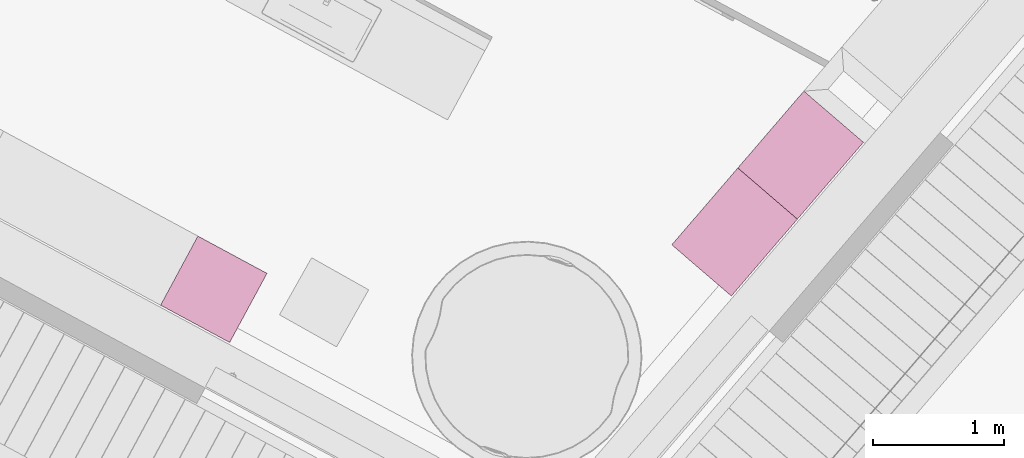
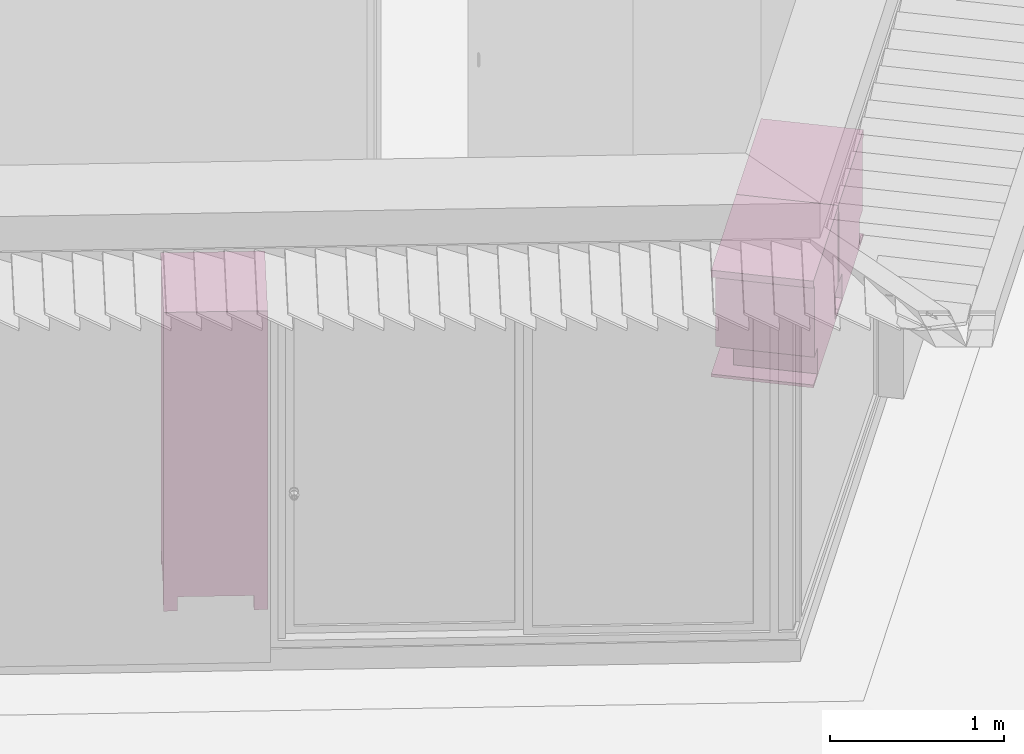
# One storey, part 24 of 41: 3 furnishings.
"""IFC2X3 building model written with IfcOpenShell, lengths in metres."""

from ifc_helpers import new_model, entity, si_unit, converted_unit, derived_unit, money_unit, direction, frame, origin_with_axes, place, context, subcontext, project, spatial, open_shell, faceted_brep, surface_model, source, transform, mapped, type_object, element, save


model = new_model("IFC2X3")

# Units and contexts
model_context = context("Model", 3, precision=1e-05, world=origin_with_axes(), true_north=direction((0.0, 1.0)))
body_context = subcontext(model_context, "Body", "Model", "MODEL_VIEW")
ifc_project = project(units=[si_unit("LENGTHUNIT", "METRE"), si_unit("AREAUNIT", "SQUARE_METRE"), si_unit("VOLUMEUNIT", "CUBIC_METRE"), converted_unit("PLANEANGLEUNIT", "DEGREE", entity("IfcPlaneAngleMeasure", 0.0174532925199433), si_unit("PLANEANGLEUNIT", "RADIAN"), dimensions=[0, 0, 0, 0, 0, 0, 0]), money_unit("EUR"), converted_unit("TIMEUNIT", "Year", entity("IfcTimeMeasure", 31556926.0), si_unit("TIMEUNIT", "SECOND"), dimensions=[0, 0, 1, 0, 0, 0, 0]), si_unit("MASSUNIT", "GRAM", prefix="KILO"), si_unit("THERMODYNAMICTEMPERATUREUNIT", "DEGREE_CELSIUS"), si_unit("LUMINOUSINTENSITYUNIT", "LUMEN"), si_unit("ENERGYUNIT", "JOULE", prefix="MEGA"), derived_unit("THERMALCONDUCTANCEUNIT", [(si_unit("POWERUNIT", "WATT"), 1), (si_unit("LENGTHUNIT", "METRE"), -1), (si_unit("THERMODYNAMICTEMPERATUREUNIT", "KELVIN"), -1)]), derived_unit("SPECIFICHEATCAPACITYUNIT", [(si_unit("ENERGYUNIT", "JOULE"), 1), (si_unit("MASSUNIT", "GRAM", prefix="KILO"), -1), (si_unit("THERMODYNAMICTEMPERATUREUNIT", "KELVIN"), -1)]), derived_unit("MASSDENSITYUNIT", [(si_unit("MASSUNIT", "GRAM", prefix="KILO"), 1), (si_unit("VOLUMEUNIT", "CUBIC_METRE"), -1)])], contexts=[model_context])

# Site, building, storey
site_placement = place(None, frame((-3.949935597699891, 1.740105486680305, 0.0), z_axis=(0.0, 0.0, 1.0), x_axis=(0.8799804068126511, -0.475009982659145, 0.0)))
site = spatial("IfcSite", under=ifc_project, at=site_placement, Name="Gelände", CompositionType="ELEMENT")
building_placement = place(site_placement, origin_with_axes())
building = spatial("IfcBuilding", under=site, at=building_placement, Name="Gebäude", CompositionType="ELEMENT")
storey_placement = place(building_placement, frame((0.0, 0.0, 4.55), z_axis=(0.0, 0.0, 1.0), x_axis=(1.0, 0.0, 0.0)))
storey = spatial("IfcBuildingStorey", under=building, at=storey_placement, Name="Staffelgeschoss", CompositionType="ELEMENT", Elevation=4.55)

# Furnishings
furniture_type_1 = type_object("IfcFurnitureType", Name="Kleiderschrank 22", AssemblyPlace="NOTDEFINED")
shared_shape_1 = source(origin_with_axes(), body_context, "Body", "Brep", [
    faceted_brep([(-0.02000000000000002, 0.6000000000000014, 0.12), (-0.02000000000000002, 0.6000000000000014, 2.05), (-0.02000000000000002, 0.5800000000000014, 2.05), (-0.02000000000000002, 0.5800000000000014, 0.12), (-0.5799999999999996, 0.6000000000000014, 0.12), (-0.5799999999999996, 0.6000000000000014, 2.05), (-0.5799999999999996, 0.5800000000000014, 2.05), (-0.5799999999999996, 0.5800000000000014, 0.12)], [[[0, 1, 2, 3]], [[4, 5, 1, 0]], [[1, 5, 6, 2]], [[3, 2, 6, 7]], [[0, 3, 7, 4]], [[7, 6, 5, 4]]]),
    faceted_brep([(-0.5999999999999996, 0.05000000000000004, 0.1), (-0.5999999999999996, 0.6000000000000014, 0.1), (-0.5799999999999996, 0.6000000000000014, 0.1), (-0.5799999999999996, 0.05000000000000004, 0.1), (-0.5999999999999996, 0.05000000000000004, 2.07), (-0.5999999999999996, 0.6000000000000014, 2.07), (-0.5799999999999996, 0.6000000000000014, 2.07), (-0.5799999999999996, 0.05000000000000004, 2.07)], [[[0, 1, 2, 3]], [[0, 4, 5, 1]], [[1, 5, 6, 2]], [[2, 6, 7, 3]], [[3, 7, 4, 0]], [[7, 6, 5, 4]]]),
    faceted_brep([(-0.02, 0.05000000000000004, 0.1), (-0.02, 0.6000000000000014, 0.1), (0.0, 0.6000000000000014, 0.1), (0.0, 0.05000000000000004, 0.1), (-0.02, 0.05000000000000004, 2.07), (-0.02, 0.6000000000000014, 2.07), (0.0, 0.6000000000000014, 2.07), (0.0, 0.05000000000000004, 2.07)], [[[0, 1, 2, 3]], [[0, 4, 5, 1]], [[1, 5, 6, 2]], [[2, 6, 7, 3]], [[3, 7, 4, 0]], [[7, 6, 5, 4]]]),
    faceted_brep([(-0.5799999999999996, 0.05000000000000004, 0.1), (-0.5799999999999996, 0.6000000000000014, 0.1), (-0.02000000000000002, 0.6000000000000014, 0.1), (-0.02000000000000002, 0.05000000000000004, 0.1), (-0.5799999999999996, 0.05000000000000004, 0.12), (-0.5799999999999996, 0.6000000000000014, 0.12), (-0.02000000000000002, 0.6000000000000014, 0.12), (-0.02000000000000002, 0.05000000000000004, 0.12)], [[[0, 1, 2, 3]], [[0, 4, 5, 1]], [[1, 5, 6, 2]], [[2, 6, 7, 3]], [[3, 7, 4, 0]], [[7, 6, 5, 4]]]),
    faceted_brep([(-0.5799999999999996, 0.05000000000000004, 2.05), (-0.5799999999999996, 0.6000000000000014, 2.05), (-0.02000000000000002, 0.6000000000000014, 2.05), (-0.02000000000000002, 0.05000000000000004, 2.05), (-0.5799999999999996, 0.05000000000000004, 2.07), (-0.5799999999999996, 0.6000000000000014, 2.07), (-0.02000000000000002, 0.6000000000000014, 2.07), (-0.02000000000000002, 0.05000000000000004, 2.07)], [[[0, 1, 2, 3]], [[0, 4, 5, 1]], [[1, 5, 6, 2]], [[2, 6, 7, 3]], [[3, 7, 4, 0]], [[7, 6, 5, 4]]]),
    faceted_brep([(-0.5999999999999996, 0.6000000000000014, 2.07), (-0.5999999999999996, 0.0, 2.07), (-0.5999999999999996, 0.0, 2.1), (-0.5999999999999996, 0.6000000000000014, 2.1), (0.0, 0.6000000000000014, 2.07), (0.0, 0.0, 2.07), (0.0, 0.0, 2.1), (0.0, 0.6000000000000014, 2.1)], [[[0, 1, 2, 3]], [[0, 4, 5, 1]], [[1, 5, 6, 2]], [[3, 2, 6, 7]], [[4, 0, 3, 7]], [[5, 4, 7, 6]]]),
    faceted_brep([(-0.07999999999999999, 0.5200000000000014, 0.0), (-0.07999999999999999, 0.5200000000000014, 0.1), (-0.07999999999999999, 0.6000000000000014, 0.1), (-0.07999999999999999, 0.6000000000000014, 0.0), (0.0, 0.5200000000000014, 0.0), (0.0, 0.5200000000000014, 0.1), (0.0, 0.6000000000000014, 0.1), (0.0, 0.6000000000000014, 0.0)], [[[0, 1, 2, 3]], [[4, 5, 1, 0]], [[1, 5, 6, 2]], [[3, 2, 6, 7]], [[0, 3, 7, 4]], [[7, 6, 5, 4]]]),
    faceted_brep([(-0.5999999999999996, 0.5200000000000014, 0.0), (-0.5999999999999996, 0.5200000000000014, 0.1), (-0.5999999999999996, 0.6000000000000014, 0.1), (-0.5999999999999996, 0.6000000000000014, 0.0), (-0.5199999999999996, 0.5200000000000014, 0.0), (-0.5199999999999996, 0.5200000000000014, 0.1), (-0.5199999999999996, 0.6000000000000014, 0.1), (-0.5199999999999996, 0.6000000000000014, 0.0)], [[[0, 1, 2, 3]], [[4, 5, 1, 0]], [[1, 5, 6, 2]], [[3, 2, 6, 7]], [[0, 3, 7, 4]], [[7, 6, 5, 4]]]),
    faceted_brep([(-0.07999999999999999, 0.05000000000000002, 0.0), (-0.07999999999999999, 0.05000000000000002, 0.1), (-0.07999999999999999, 0.13, 0.1), (-0.07999999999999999, 0.13, 0.0), (0.0, 0.05000000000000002, 0.0), (0.0, 0.05000000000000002, 0.1), (0.0, 0.13, 0.1), (0.0, 0.13, 0.0)], [[[0, 1, 2, 3]], [[4, 5, 1, 0]], [[1, 5, 6, 2]], [[3, 2, 6, 7]], [[0, 3, 7, 4]], [[7, 6, 5, 4]]]),
    faceted_brep([(-0.5999999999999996, 0.05000000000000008, 0.0), (-0.5999999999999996, 0.05000000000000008, 0.1), (-0.5999999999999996, 0.1300000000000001, 0.1), (-0.5999999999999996, 0.1300000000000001, 0.0), (-0.5199999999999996, 0.05000000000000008, 0.0), (-0.5199999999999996, 0.05000000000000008, 0.1), (-0.5199999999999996, 0.1300000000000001, 0.1), (-0.5199999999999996, 0.1300000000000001, 0.0)], [[[0, 1, 2, 3]], [[4, 5, 1, 0]], [[1, 5, 6, 2]], [[3, 2, 6, 7]], [[0, 3, 7, 4]], [[7, 6, 5, 4]]]),
    faceted_brep([(-0.2994999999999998, 0.05, 0.1104999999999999), (-0.2994999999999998, 0.03, 0.1104999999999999), (-0.2994999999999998, 0.03000000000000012, 2.0595), (-0.2994999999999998, 0.05000000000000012, 2.0595), (-0.2694999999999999, 0.05, 0.1405), (-0.2694999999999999, 0.03000000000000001, 0.1405), (-0.2694999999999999, 0.03000000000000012, 2.0295), (-0.2694999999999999, 0.05000000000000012, 2.0295)], [[[0, 1, 2, 3]], [[4, 5, 1, 0]], [[1, 5, 6, 2]], [[3, 2, 6, 7]], [[0, 3, 7, 4]], [[7, 6, 5, 4]]]),
    faceted_brep([(-0.04050000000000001, 0.05, 0.1405), (-0.04050000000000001, 0.03000000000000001, 0.1405), (-0.04050000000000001, 0.03000000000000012, 2.0295), (-0.04050000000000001, 0.05000000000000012, 2.0295), (-0.01050000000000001, 0.05, 0.1104999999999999), (-0.01050000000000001, 0.03, 0.1104999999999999), (-0.01050000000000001, 0.03000000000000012, 2.0595), (-0.01050000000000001, 0.05000000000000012, 2.0595)], [[[0, 1, 2, 3]], [[4, 5, 1, 0]], [[1, 5, 6, 2]], [[3, 2, 6, 7]], [[0, 3, 7, 4]], [[7, 6, 5, 4]]]),
    faceted_brep([(-0.01050000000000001, 0.05, 0.1104999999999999), (-0.01050000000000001, 0.03, 0.1104999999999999), (-0.2994999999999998, 0.03, 0.1104999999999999), (-0.2994999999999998, 0.05, 0.1104999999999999), (-0.04050000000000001, 0.05, 0.1405), (-0.04050000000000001, 0.03000000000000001, 0.1405), (-0.2694999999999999, 0.03000000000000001, 0.1405), (-0.2694999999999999, 0.05, 0.1405)], [[[0, 1, 2, 3]], [[4, 5, 1, 0]], [[1, 5, 6, 2]], [[3, 2, 6, 7]], [[0, 3, 7, 4]], [[7, 6, 5, 4]]]),
    faceted_brep([(-0.04050000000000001, 0.05000000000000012, 2.0295), (-0.04050000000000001, 0.03000000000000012, 2.0295), (-0.2694999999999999, 0.03000000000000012, 2.0295), (-0.2694999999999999, 0.05000000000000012, 2.0295), (-0.01050000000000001, 0.05000000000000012, 2.0595), (-0.01050000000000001, 0.03000000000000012, 2.0595), (-0.2994999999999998, 0.03000000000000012, 2.0595), (-0.2994999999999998, 0.05000000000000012, 2.0595)], [[[0, 1, 2, 3]], [[4, 5, 1, 0]], [[1, 5, 6, 2]], [[3, 2, 6, 7]], [[0, 3, 7, 4]], [[7, 6, 5, 4]]]),
    faceted_brep([(-0.2694999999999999, 0.04500000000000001, 0.1405), (-0.2694999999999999, 0.035, 0.1405), (-0.2694999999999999, 0.03500000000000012, 2.0295), (-0.2694999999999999, 0.04500000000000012, 2.0295), (-0.04050000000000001, 0.04500000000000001, 0.1405), (-0.04050000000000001, 0.035, 0.1405), (-0.04050000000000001, 0.03500000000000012, 2.0295), (-0.04050000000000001, 0.04500000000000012, 2.0295)], [[[0, 1, 2, 3]], [[4, 5, 1, 0]], [[1, 5, 6, 2]], [[3, 2, 6, 7]], [[0, 3, 7, 4]], [[7, 6, 5, 4]]]),
    faceted_brep([(-0.2593923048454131, 0.035, 0.954), (-0.2609999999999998, 0.035, 0.96), (-0.2593923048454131, 0.035, 0.966), (-0.2549999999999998, 0.035, 0.9703923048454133), (-0.2489999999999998, 0.035, 0.972), (-0.2429999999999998, 0.035, 0.9703923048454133), (-0.2386076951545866, 0.035, 0.966), (-0.2369999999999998, 0.035, 0.96), (-0.2386076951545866, 0.035, 0.954), (-0.2429999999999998, 0.035, 0.9496076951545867), (-0.2489999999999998, 0.035, 0.948), (-0.2549999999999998, 0.035, 0.9496076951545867), (-0.2593923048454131, 0.01, 0.954), (-0.2609999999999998, 0.01, 0.96), (-0.2593923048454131, 0.01, 0.966), (-0.2549999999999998, 0.01, 0.9703923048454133), (-0.2489999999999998, 0.01, 0.972), (-0.2429999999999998, 0.01, 0.9703923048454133), (-0.2386076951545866, 0.01, 0.966), (-0.2369999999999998, 0.01, 0.96), (-0.2386076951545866, 0.01, 0.954), (-0.2429999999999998, 0.01, 0.9496076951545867), (-0.2489999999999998, 0.01, 0.948), (-0.2549999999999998, 0.01, 0.9496076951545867)], [[[0, 1, 2, 3, 4, 5, 6, 7, 8, 9, 10, 11]], [[0, 12, 13, 1]], [[1, 13, 14, 2]], [[2, 14, 15, 3]], [[3, 15, 16, 4]], [[4, 16, 17, 5]], [[5, 17, 18, 6]], [[6, 18, 19, 7]], [[7, 19, 20, 8]], [[8, 20, 21, 9]], [[9, 21, 22, 10]], [[10, 22, 23, 11]], [[11, 23, 12, 0]], [[12, 23, 22, 21, 20, 19, 18, 17, 16, 15, 14, 13]]]),
    faceted_brep([(-0.5904999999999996, 0.05, 0.1104999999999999), (-0.5904999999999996, 0.03, 0.1104999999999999), (-0.5904999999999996, 0.03000000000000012, 2.0595), (-0.5904999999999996, 0.05000000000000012, 2.0595), (-0.5604999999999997, 0.05, 0.1405), (-0.5604999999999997, 0.03000000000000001, 0.1405), (-0.5604999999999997, 0.03000000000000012, 2.0295), (-0.5604999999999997, 0.05000000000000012, 2.0295)], [[[0, 1, 2, 3]], [[4, 5, 1, 0]], [[1, 5, 6, 2]], [[3, 2, 6, 7]], [[0, 3, 7, 4]], [[7, 6, 5, 4]]]),
    faceted_brep([(-0.3314999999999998, 0.05, 0.1405), (-0.3314999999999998, 0.03000000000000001, 0.1405), (-0.3314999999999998, 0.03000000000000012, 2.0295), (-0.3314999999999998, 0.05000000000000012, 2.0295), (-0.3014999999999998, 0.05, 0.1104999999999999), (-0.3014999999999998, 0.03, 0.1104999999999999), (-0.3014999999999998, 0.03000000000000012, 2.0595), (-0.3014999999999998, 0.05000000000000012, 2.0595)], [[[0, 1, 2, 3]], [[4, 5, 1, 0]], [[1, 5, 6, 2]], [[3, 2, 6, 7]], [[0, 3, 7, 4]], [[7, 6, 5, 4]]]),
    faceted_brep([(-0.3014999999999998, 0.05, 0.1104999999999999), (-0.3014999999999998, 0.03, 0.1104999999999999), (-0.5904999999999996, 0.03, 0.1104999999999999), (-0.5904999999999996, 0.05, 0.1104999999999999), (-0.3314999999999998, 0.05, 0.1405), (-0.3314999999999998, 0.03000000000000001, 0.1405), (-0.5604999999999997, 0.03000000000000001, 0.1405), (-0.5604999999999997, 0.05, 0.1405)], [[[0, 1, 2, 3]], [[4, 5, 1, 0]], [[1, 5, 6, 2]], [[3, 2, 6, 7]], [[0, 3, 7, 4]], [[7, 6, 5, 4]]]),
    faceted_brep([(-0.3314999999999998, 0.05000000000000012, 2.0295), (-0.3314999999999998, 0.03000000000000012, 2.0295), (-0.5604999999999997, 0.03000000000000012, 2.0295), (-0.5604999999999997, 0.05000000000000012, 2.0295), (-0.3014999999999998, 0.05000000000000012, 2.0595), (-0.3014999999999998, 0.03000000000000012, 2.0595), (-0.5904999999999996, 0.03000000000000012, 2.0595), (-0.5904999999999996, 0.05000000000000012, 2.0595)], [[[0, 1, 2, 3]], [[4, 5, 1, 0]], [[1, 5, 6, 2]], [[3, 2, 6, 7]], [[0, 3, 7, 4]], [[7, 6, 5, 4]]]),
    faceted_brep([(-0.5604999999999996, 0.04500000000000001, 0.1405), (-0.5604999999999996, 0.04000000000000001, 0.1405), (-0.5604999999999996, 0.04000000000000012, 2.0295), (-0.5604999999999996, 0.04500000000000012, 2.0295), (-0.3314999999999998, 0.04500000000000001, 0.1405), (-0.3314999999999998, 0.04000000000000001, 0.1405), (-0.3314999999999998, 0.04000000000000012, 2.0295), (-0.3314999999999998, 0.04500000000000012, 2.0295)], [[[0, 1, 2, 3]], [[4, 5, 1, 0]], [[1, 5, 6, 2]], [[3, 2, 6, 7]], [[0, 3, 7, 4]], [[7, 6, 5, 4]]]),
    faceted_brep([(-0.5604999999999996, 0.04000000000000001, 0.1405), (-0.5604999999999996, 0.03500000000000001, 0.1405), (-0.5604999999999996, 0.03500000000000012, 2.0295), (-0.5604999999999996, 0.04000000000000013, 2.0295), (-0.3314999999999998, 0.04000000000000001, 0.1405), (-0.3314999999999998, 0.03500000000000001, 0.1405), (-0.3314999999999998, 0.03500000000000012, 2.0295), (-0.3314999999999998, 0.04000000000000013, 2.0295)], [[[0, 1, 2, 3]], [[4, 5, 1, 0]], [[1, 5, 6, 2]], [[3, 2, 6, 7]], [[0, 3, 7, 4]], [[7, 6, 5, 4]]]),
    faceted_brep([(-0.3406076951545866, 0.035, 0.954), (-0.3449999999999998, 0.035, 0.9496076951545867), (-0.3509999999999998, 0.035, 0.948), (-0.3569999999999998, 0.035, 0.9496076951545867), (-0.3613923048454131, 0.035, 0.954), (-0.3629999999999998, 0.035, 0.96), (-0.3613923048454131, 0.035, 0.966), (-0.3569999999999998, 0.035, 0.9703923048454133), (-0.3509999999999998, 0.035, 0.972), (-0.3449999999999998, 0.035, 0.9703923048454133), (-0.3406076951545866, 0.035, 0.966), (-0.3389999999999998, 0.035, 0.96), (-0.3406076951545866, 0.01, 0.954), (-0.3449999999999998, 0.01, 0.9496076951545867), (-0.3509999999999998, 0.01, 0.948), (-0.3569999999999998, 0.01, 0.9496076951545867), (-0.3613923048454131, 0.01, 0.954), (-0.3629999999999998, 0.01, 0.96), (-0.3613923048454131, 0.01, 0.966), (-0.3569999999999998, 0.01, 0.9703923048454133), (-0.3509999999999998, 0.01, 0.972), (-0.3449999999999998, 0.01, 0.9703923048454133), (-0.3406076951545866, 0.01, 0.966), (-0.3389999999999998, 0.01, 0.96)], [[[0, 1, 2, 3, 4, 5, 6, 7, 8, 9, 10, 11]], [[1, 0, 12, 13]], [[2, 1, 13, 14]], [[3, 2, 14, 15]], [[4, 3, 15, 16]], [[5, 4, 16, 17]], [[6, 5, 17, 18]], [[7, 6, 18, 19]], [[8, 7, 19, 20]], [[9, 8, 20, 21]], [[10, 9, 21, 22]], [[11, 10, 22, 23]], [[0, 11, 23, 12]], [[12, 23, 22, 21, 20, 19, 18, 17, 16, 15, 14, 13]]]),
])
furnishing_placement = place(storey_placement, frame((22.40484062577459, 2.239992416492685, 0.0), z_axis=(0.0, 0.0, 1.0), x_axis=(-1.0, 0.0, 0.0)))
element("IfcFurnishingElement", 1, at=furnishing_placement, inside=storey, type_object=furniture_type_1, Name="Objekt-0066", ObjectType="FURNITURE", context=body_context, shape_type="MappedRepresentation", body=[
    mapped(shared_shape_1, transform((0.0, 0.0, 0.0))),
])
furniture_type_2 = type_object("IfcFurnitureType", Name="Kamin freistehend 22", AssemblyPlace="NOTDEFINED")
shared_shape_2 = source(origin_with_axes(), body_context, "Body", "SurfaceModel", [
    faceted_brep([(0.0, 0.0, 0.0), (0.0, 0.0, 0.02), (-0.7741797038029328, 0.0, 0.02), (-0.7741797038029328, 0.0, 0.0), (0.0, 0.6, 0.0), (0.0, 0.6, 0.02), (-0.7741797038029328, 0.6, 0.02), (-0.7741797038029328, 0.6, 0.0)], [[[0, 1, 2, 3]], [[4, 5, 1, 0]], [[1, 5, 6, 2]], [[3, 2, 6, 7]], [[0, 3, 7, 4]], [[7, 6, 5, 4]]]),
    faceted_brep([(-0.1146932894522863, 0.6, 0.02), (-0.1146932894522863, 0.6, 0.2), (-0.1146932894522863, 0.1090909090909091, 0.2), (-0.1146932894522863, 0.1090909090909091, 0.02), (-0.6594864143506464, 0.6, 0.02), (-0.6594864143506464, 0.6, 0.2), (-0.6594864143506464, 0.1090909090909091, 0.2), (-0.6021397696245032, 0.1090909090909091, 0.2), (-0.6021397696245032, 0.5454545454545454, 0.2), (-0.1720399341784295, 0.5454545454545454, 0.2), (-0.1720399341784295, 0.1090909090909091, 0.2), (-0.1720399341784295, 0.1090909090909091, 0.02), (-0.1720399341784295, 0.5454545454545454, 0.02), (-0.6021397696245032, 0.5454545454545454, 0.02), (-0.6021397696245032, 0.1090909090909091, 0.02), (-0.6594864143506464, 0.1090909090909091, 0.02)], [[[0, 1, 2, 3]], [[4, 5, 1, 0]], [[1, 5, 6, 7, 8, 9, 10, 2]], [[3, 2, 10, 11]], [[0, 3, 11, 12, 13, 14, 15, 4]], [[15, 6, 5, 4]], [[14, 7, 6, 15]], [[13, 8, 7, 14]], [[12, 9, 8, 13]], [[11, 10, 9, 12]]]),
    faceted_brep([(-0.6021397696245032, 0.1418181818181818, 0.02), (-0.6021397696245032, 0.1418181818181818, 0.2), (-0.6021397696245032, 0.1963636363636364, 0.2), (-0.6021397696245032, 0.1963636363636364, 0.02), (-0.1720399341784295, 0.1418181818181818, 0.02), (-0.1720399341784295, 0.1418181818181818, 0.2), (-0.1720399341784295, 0.1963636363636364, 0.2), (-0.1720399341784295, 0.1963636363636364, 0.02)], [[[0, 1, 2, 3]], [[4, 5, 1, 0]], [[1, 5, 6, 2]], [[3, 2, 6, 7]], [[0, 3, 7, 4]], [[7, 6, 5, 4]]]),
    faceted_brep([(-0.08028530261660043, 0.08727272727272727, 0.25), (-0.08028530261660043, 0.08727272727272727, 0.7), (-0.6938944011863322, 0.08727272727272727, 0.7), (-0.6938944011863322, 0.08727272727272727, 0.25), (-0.1376319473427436, 0.08727272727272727, 0.6000000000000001), (-0.1376319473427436, 0.08727272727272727, 0.35), (-0.6365477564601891, 0.08727272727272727, 0.35), (-0.6365477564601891, 0.08727272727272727, 0.6000000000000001), (-0.08028530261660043, 0.1418181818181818, 0.25), (-0.08028530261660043, 0.1418181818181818, 0.7), (-0.6938944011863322, 0.1418181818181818, 0.7), (-0.6938944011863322, 0.1418181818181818, 0.25), (-0.1376319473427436, 0.1418181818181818, 0.6000000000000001), (-0.1376319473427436, 0.1418181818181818, 0.35), (-0.6365477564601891, 0.1418181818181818, 0.35), (-0.6365477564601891, 0.1418181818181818, 0.6000000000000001)], [[[0, 1, 2, 3], [4, 5, 6, 7]], [[0, 8, 9, 1]], [[1, 9, 10, 2]], [[2, 10, 11, 3]], [[3, 11, 8, 0]], [[4, 12, 13, 5]], [[5, 13, 14, 6]], [[6, 14, 15, 7]], [[7, 15, 12, 4]], [[8, 11, 10, 9], [12, 15, 14, 13]]]),
    faceted_brep([(-0.1376319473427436, 0.09818181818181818, 0.35), (-0.1376319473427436, 0.09818181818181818, 0.6000000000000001), (-0.6365477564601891, 0.09818181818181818, 0.6000000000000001), (-0.6365477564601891, 0.09818181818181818, 0.35), (-0.1376319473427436, 0.12, 0.6000000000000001), (-0.1376319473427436, 0.12, 0.35), (-0.6365477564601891, 0.12, 0.6000000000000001), (-0.6365477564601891, 0.12, 0.35)], [[[0, 1, 2, 3]], [[4, 1, 0, 5]], [[6, 2, 1, 4]], [[7, 3, 2, 6]], [[5, 0, 3, 7]], [[5, 7, 6, 4]]]),
    faceted_brep([(0.0, 0.6, 0.7), (0.0, 0.6, 0.75), (0.0, 0.0, 0.75), (0.0, 0.0, 0.7), (-0.7741797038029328, 0.6, 0.7), (-0.7741797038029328, 0.6, 0.75), (-0.7741797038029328, 0.0, 0.75), (-0.7741797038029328, 0.0, 0.7)], [[[0, 1, 2, 3]], [[4, 5, 1, 0]], [[1, 5, 6, 2]], [[3, 2, 6, 7]], [[0, 3, 7, 4]], [[7, 6, 5, 4]]]),
    faceted_brep([(-0.02293865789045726, 0.02181818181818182, 0.2), (-0.02293865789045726, 0.02181818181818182, 0.7), (-0.08028530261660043, 0.02181818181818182, 0.7), (-0.08028530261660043, 0.02181818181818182, 0.2), (-0.02293865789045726, 0.6, 0.2), (-0.02293865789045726, 0.6, 0.7), (-0.7512410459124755, 0.6, 0.7), (-0.7512410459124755, 0.02181818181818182, 0.7), (-0.6938944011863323, 0.02181818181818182, 0.7), (-0.6938944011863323, 0.5454545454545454, 0.7), (-0.08028530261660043, 0.5454545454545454, 0.7), (-0.08028530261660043, 0.5454545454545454, 0.2), (-0.6938944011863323, 0.5454545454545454, 0.2), (-0.6938944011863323, 0.02181818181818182, 0.2), (-0.7512410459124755, 0.02181818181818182, 0.2), (-0.7512410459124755, 0.6, 0.2)], [[[0, 1, 2, 3]], [[4, 5, 1, 0]], [[1, 5, 6, 7, 8, 9, 10, 2]], [[3, 2, 10, 11]], [[0, 3, 11, 12, 13, 14, 15, 4]], [[15, 6, 5, 4]], [[14, 7, 6, 15]], [[13, 8, 7, 14]], [[12, 9, 8, 13]], [[11, 10, 9, 12]]]),
    faceted_brep([(-0.08028530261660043, 0.03272727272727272, 0.65), (-0.08028530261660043, 0.03272727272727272, 0.7000000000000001), (-0.6938944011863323, 0.03272727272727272, 0.7000000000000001), (-0.6938944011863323, 0.03272727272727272, 0.65), (-0.08028530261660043, 0.08727272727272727, 0.65), (-0.08028530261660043, 0.08727272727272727, 0.7000000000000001), (-0.6938944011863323, 0.08727272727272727, 0.7000000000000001), (-0.6938944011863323, 0.08727272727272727, 0.65)], [[[0, 1, 2, 3]], [[4, 5, 1, 0]], [[1, 5, 6, 2]], [[3, 2, 6, 7]], [[0, 3, 7, 4]], [[7, 6, 5, 4]]]),
    faceted_brep([(-0.08028530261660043, 0.5498181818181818, 0.2), (-0.08028530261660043, 0.5498181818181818, 0.25), (-0.08028530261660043, 0.08727272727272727, 0.25), (-0.08028530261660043, 0.08727272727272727, 0.2), (-0.6938944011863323, 0.5498181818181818, 0.2), (-0.6938944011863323, 0.5498181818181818, 0.25), (-0.6938944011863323, 0.08727272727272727, 0.25), (-0.6938944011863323, 0.08727272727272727, 0.2)], [[[0, 1, 2, 3]], [[4, 5, 1, 0]], [[1, 5, 6, 2]], [[3, 2, 6, 7]], [[0, 3, 7, 4]], [[7, 6, 5, 4]]]),
    faceted_brep([(-0.08028530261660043, 0.03272727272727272, 0.2), (-0.08028530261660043, 0.03272727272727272, 0.3), (-0.6938944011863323, 0.03272727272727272, 0.3), (-0.6938944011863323, 0.03272727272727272, 0.2), (-0.08028530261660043, 0.08727272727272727, 0.2), (-0.08028530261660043, 0.08727272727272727, 0.3), (-0.6938944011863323, 0.08727272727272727, 0.3), (-0.6938944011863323, 0.08727272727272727, 0.2)], [[[0, 1, 2, 3]], [[4, 5, 1, 0]], [[1, 5, 6, 2]], [[3, 2, 6, 7]], [[0, 3, 7, 4]], [[7, 6, 5, 4]]]),
    surface_model("IfcShellBasedSurfaceModel", [(-0.08028530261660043, 0.1418181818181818, 0.3), (-0.08028530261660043, 0.1418181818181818, 0.6000000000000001), (-0.6938944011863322, 0.1418181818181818, 0.6000000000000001), (-0.6938944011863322, 0.1418181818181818, 0.3)], [open_shell([[[0, 1, 2, 3]]])]),
])
for number, where, z_axis, x_axis, name in (
    (2, (25.78791806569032, 4.657476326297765, 0.0), (0.0, 0.0, 1.0), (-0.2133784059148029, -0.9769696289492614, 0.0), "Objekt-0070"),
    (3, (25.62272483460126, 3.901126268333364, 0.0), (0.0, 0.0, 1.0), (-0.2133784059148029, -0.9769696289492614, 0.0), "Objekt-0070"),
):
    element("IfcFurnishingElement", number, at=place(storey_placement, frame(where, z_axis=z_axis, x_axis=x_axis)), inside=storey, type_object=furniture_type_2, Name=name, ObjectType="FURNITURE", context=body_context, shape_type="MappedRepresentation", body=[
        mapped(shared_shape_2, transform((0.0, 0.0, 0.0))),
    ])

save(model, "model.ifc")
